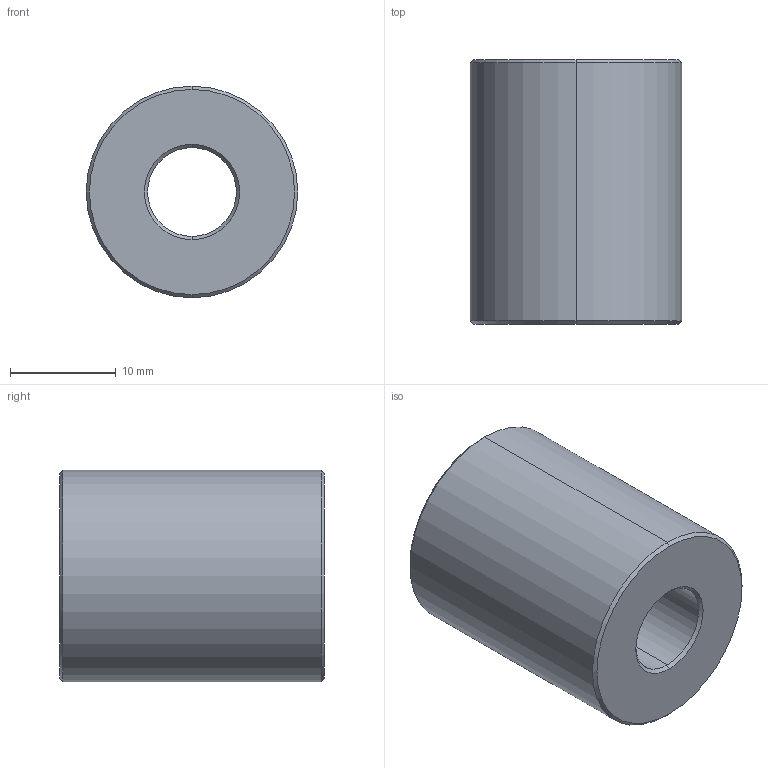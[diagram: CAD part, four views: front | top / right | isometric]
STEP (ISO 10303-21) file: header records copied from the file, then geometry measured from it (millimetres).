
FILE_DESCRIPTION (( 'STEP AP214' ), '1' );
FILE_NAME ('SBNB-20PT18.STEP', '2019-11-11T06:24:07', ( '微软用户' ), ( '微软中国' ), 'SwSTEP 2.0', 'SolidWorks 2016', '' );
FILE_SCHEMA (( 'AUTOMOTIVE_DESIGN' ));
Length unit declared in the file: millimetre
Products named in the file (1): SBNB-20PT18
Bounding box: 20 x 25 x 20 mm (x, y, z)
Volume: 6460.5 mm3; surface area: 2716.7 mm2
Topology: 1 solids, 1 shells, 14 faces, 28 edges, 16 vertices
Faces by surface type: cone 8, cylinder 4, plane 2
Entity records: 402 total; most frequent: DIRECTION 74, CARTESIAN_POINT 59, ORIENTED_EDGE 56, AXIS2_PLACEMENT_3D 31, EDGE_CURVE 28, VERTEX_POINT 16, EDGE_LOOP 16, CIRCLE 16
